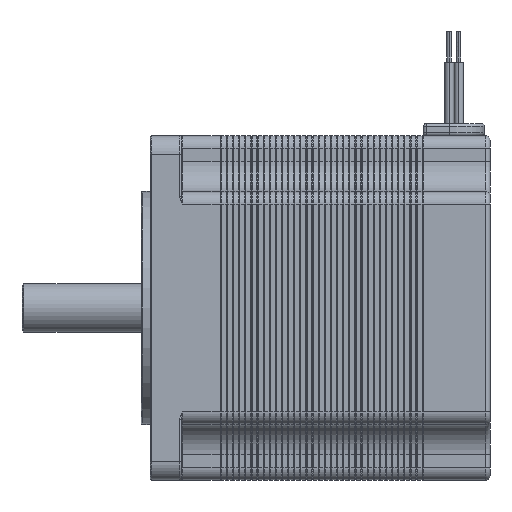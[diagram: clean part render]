
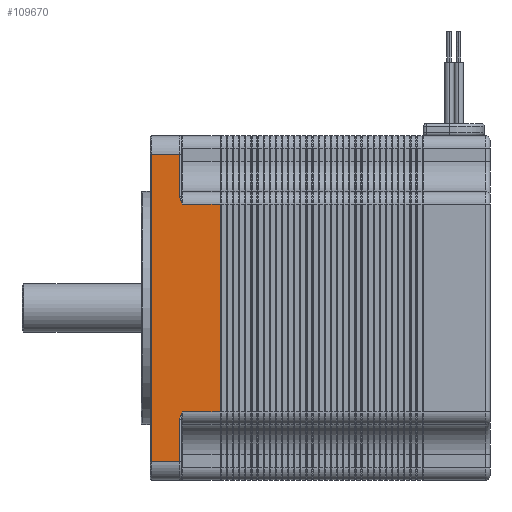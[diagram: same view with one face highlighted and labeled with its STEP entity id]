
A CAD part, left-side view. The second image highlights one B-rep face of the part: STEP entity #109670.
In plain terms, the highlighted planar face has unit normal (-1, 0, 0).
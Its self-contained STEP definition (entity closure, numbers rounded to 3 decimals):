
#2058 = CARTESIAN_POINT ( 'NONE',  ( -28.15, 50.7, -17. ) ) ;
#2071 = EDGE_CURVE ( 'NONE', #87929, #42845, #86512, .T. ) ;
#2691 = EDGE_CURVE ( 'NONE', #11252, #70467, #44608, .T. ) ;
#3276 = CARTESIAN_POINT ( 'NONE',  ( -28.15, 50.3, 17. ) ) ;
#5664 = EDGE_CURVE ( 'NONE', #11252, #61803, #43605, .T. ) ;
#5900 = VERTEX_POINT ( 'NONE', #100832 ) ;
#6456 = DIRECTION ( 'NONE',  ( 0., 1., 0. ) ) ;
#7133 = LINE ( 'NONE', #111455, #25633 ) ;
#10057 = ORIENTED_EDGE ( 'NONE', *, *, #79967, .T. ) ;
#11252 = VERTEX_POINT ( 'NONE', #112733 ) ;
#12471 = CARTESIAN_POINT ( 'NONE',  ( -28.15, 50.7, 18.265 ) ) ;
#13922 = VERTEX_POINT ( 'NONE', #100505 ) ;
#15600 = LINE ( 'NONE', #112098, #41117 ) ;
#16706 = FACE_OUTER_BOUND ( 'NONE', #40212, .T. ) ;
#22042 = CARTESIAN_POINT ( 'NONE',  ( -28.15, 50.3, -17. ) ) ;
#24906 = LINE ( 'NONE', #37263, #101489 ) ;
#25633 = VECTOR ( 'NONE', #31002, 1000. ) ;
#28681 = CARTESIAN_POINT ( 'NONE',  ( -28.15, 50.7, -17. ) ) ;
#31002 = DIRECTION ( 'NONE',  ( 0., 0., -1. ) ) ;
#31193 = CARTESIAN_POINT ( 'NONE',  ( -28.15, 50.7, -18.04 ) ) ;
#32921 = CARTESIAN_POINT ( 'NONE',  ( -28.15, 55.3, -25.15 ) ) ;
#34796 = ORIENTED_EDGE ( 'NONE', *, *, #57664, .T. ) ;
#36060 = EDGE_CURVE ( 'NONE', #42845, #39912, #36782, .T. ) ;
#36782 = LINE ( 'NONE', #2058, #39591 ) ;
#37070 = EDGE_CURVE ( 'NONE', #38893, #13922, #24906, .T. ) ;
#37114 = DIRECTION ( 'NONE',  ( 0., 0., 1. ) ) ;
#37263 = CARTESIAN_POINT ( 'NONE',  ( -28.15, 55.5, -17. ) ) ;
#38893 = VERTEX_POINT ( 'NONE', #92938 ) ;
#39591 = VECTOR ( 'NONE', #110365, 1000. ) ;
#39912 = VERTEX_POINT ( 'NONE', #108675 ) ;
#39922 = CARTESIAN_POINT ( 'NONE',  ( -28.15, 50.7, -18.265 ) ) ;
#40212 = EDGE_LOOP ( 'NONE', ( #65016, #10057, #67429, #82581, #99124, #103959, #34796, #77267, #63809, #71649 ) ) ;
#41117 = VECTOR ( 'NONE', #94223, 1000. ) ;
#41961 = CARTESIAN_POINT ( 'NONE',  ( -28.15, 50.3, 17. ) ) ;
#42845 = VERTEX_POINT ( 'NONE', #43647 ) ;
#43605 = LINE ( 'NONE', #69945, #98972 ) ;
#43647 = CARTESIAN_POINT ( 'NONE',  ( -28.15, 50.7, 18.265 ) ) ;
#43712 = VECTOR ( 'NONE', #109668, 1000. ) ;
#44608 = LINE ( 'NONE', #28681, #88540 ) ;
#46285 = CARTESIAN_POINT ( 'NONE',  ( -28.15, 50.5, 25.15 ) ) ;
#49283 = VECTOR ( 'NONE', #92927, 1000. ) ;
#50599 = DIRECTION ( 'NONE',  ( 0., 0., -1. ) ) ;
#51544 = AXIS2_PLACEMENT_3D ( 'NONE', #105702, #88142, #50599 ) ;
#54294 = DIRECTION ( 'NONE',  ( 0., -1., 0. ) ) ;
#55138 = EDGE_CURVE ( 'NONE', #39912, #5900, #87639, .T. ) ;
#57664 = EDGE_CURVE ( 'NONE', #13922, #87558, #15600, .T. ) ;
#59239 = CARTESIAN_POINT ( 'NONE',  ( -28.15, 50.642, 17.823 ) ) ;
#61803 = VERTEX_POINT ( 'NONE', #32921 ) ;
#63809 = ORIENTED_EDGE ( 'NONE', *, *, #2071, .T. ) ;
#65016 = ORIENTED_EDGE ( 'NONE', *, *, #55138, .T. ) ;
#66052 = CARTESIAN_POINT ( 'NONE',  ( -28.15, 50.642, -17.823 ) ) ;
#67429 = ORIENTED_EDGE ( 'NONE', *, *, #5664, .F. ) ;
#67556 = CARTESIAN_POINT ( 'NONE',  ( -28.15, 50.7, 18.04 ) ) ;
#67923 = CARTESIAN_POINT ( 'NONE',  ( -28.15, 50.395, 17.202 ) ) ;
#69698 = CARTESIAN_POINT ( 'NONE',  ( -28.15, 55.5, 17. ) ) ;
#69925 = B_SPLINE_CURVE_WITH_KNOTS ( 'NONE', 3,
 ( #39922, #31193, #66052, #112023, #111636, #22042 ),
 .UNSPECIFIED., .F., .F.,
 ( 4, 2, 4 ),
 ( 0., 0.001, 0.001 ),
 .UNSPECIFIED. ) ;
#69945 = CARTESIAN_POINT ( 'NONE',  ( -28.15, 50.5, -25.15 ) ) ;
#70467 = VERTEX_POINT ( 'NONE', #96736 ) ;
#71649 = ORIENTED_EDGE ( 'NONE', *, *, #36060, .T. ) ;
#77267 = ORIENTED_EDGE ( 'NONE', *, *, #80197, .F. ) ;
#77504 = PLANE ( 'NONE',  #51544 ) ;
#79967 = EDGE_CURVE ( 'NONE', #5900, #61803, #7133, .T. ) ;
#80056 = CARTESIAN_POINT ( 'NONE',  ( -28.15, 44.1, 17. ) ) ;
#80197 = EDGE_CURVE ( 'NONE', #87929, #87558, #94587, .T. ) ;
#82581 = ORIENTED_EDGE ( 'NONE', *, *, #2691, .T. ) ;
#86512 = B_SPLINE_CURVE_WITH_KNOTS ( 'NONE', 3,
 ( #3276, #67923, #113516, #59239, #67556, #12471 ),
 .UNSPECIFIED., .F., .F.,
 ( 4, 2, 4 ),
 ( 0., 0.001, 0.001 ),
 .UNSPECIFIED. ) ;
#87558 = VERTEX_POINT ( 'NONE', #80056 ) ;
#87639 = LINE ( 'NONE', #46285, #43712 ) ;
#87929 = VERTEX_POINT ( 'NONE', #41961 ) ;
#88142 = DIRECTION ( 'NONE',  ( 1., 0., 0. ) ) ;
#88540 = VECTOR ( 'NONE', #37114, 1000. ) ;
#92927 = DIRECTION ( 'NONE',  ( 0., -1., 0. ) ) ;
#92938 = CARTESIAN_POINT ( 'NONE',  ( -28.15, 50.3, -17. ) ) ;
#94223 = DIRECTION ( 'NONE',  ( 0., 0., 1. ) ) ;
#94587 = LINE ( 'NONE', #69698, #49283 ) ;
#96736 = CARTESIAN_POINT ( 'NONE',  ( -28.15, 50.7, -18.265 ) ) ;
#98972 = VECTOR ( 'NONE', #6456, 1000. ) ;
#99124 = ORIENTED_EDGE ( 'NONE', *, *, #102208, .T. ) ;
#100505 = CARTESIAN_POINT ( 'NONE',  ( -28.15, 44.1, -17. ) ) ;
#100832 = CARTESIAN_POINT ( 'NONE',  ( -28.15, 55.3, 25.15 ) ) ;
#101489 = VECTOR ( 'NONE', #54294, 1000. ) ;
#102208 = EDGE_CURVE ( 'NONE', #70467, #38893, #69925, .T. ) ;
#103959 = ORIENTED_EDGE ( 'NONE', *, *, #37070, .T. ) ;
#105702 = CARTESIAN_POINT ( 'NONE',  ( -28.15, 55.5, -17. ) ) ;
#108675 = CARTESIAN_POINT ( 'NONE',  ( -28.15, 50.7, 25.15 ) ) ;
#109668 = DIRECTION ( 'NONE',  ( 0., 1., 0. ) ) ;
#109670 = ADVANCED_FACE ( 'NONE', ( #16706 ), #77504, .F. ) ;
#110365 = DIRECTION ( 'NONE',  ( 0., 0., 1. ) ) ;
#111455 = CARTESIAN_POINT ( 'NONE',  ( -28.15, 55.3, -25.15 ) ) ;
#111636 = CARTESIAN_POINT ( 'NONE',  ( -28.15, 50.395, -17.201 ) ) ;
#112023 = CARTESIAN_POINT ( 'NONE',  ( -28.15, 50.491, -17.403 ) ) ;
#112098 = CARTESIAN_POINT ( 'NONE',  ( -28.15, 44.1, -17. ) ) ;
#112733 = CARTESIAN_POINT ( 'NONE',  ( -28.15, 50.7, -25.15 ) ) ;
#113516 = CARTESIAN_POINT ( 'NONE',  ( -28.15, 50.491, 17.403 ) ) ;
